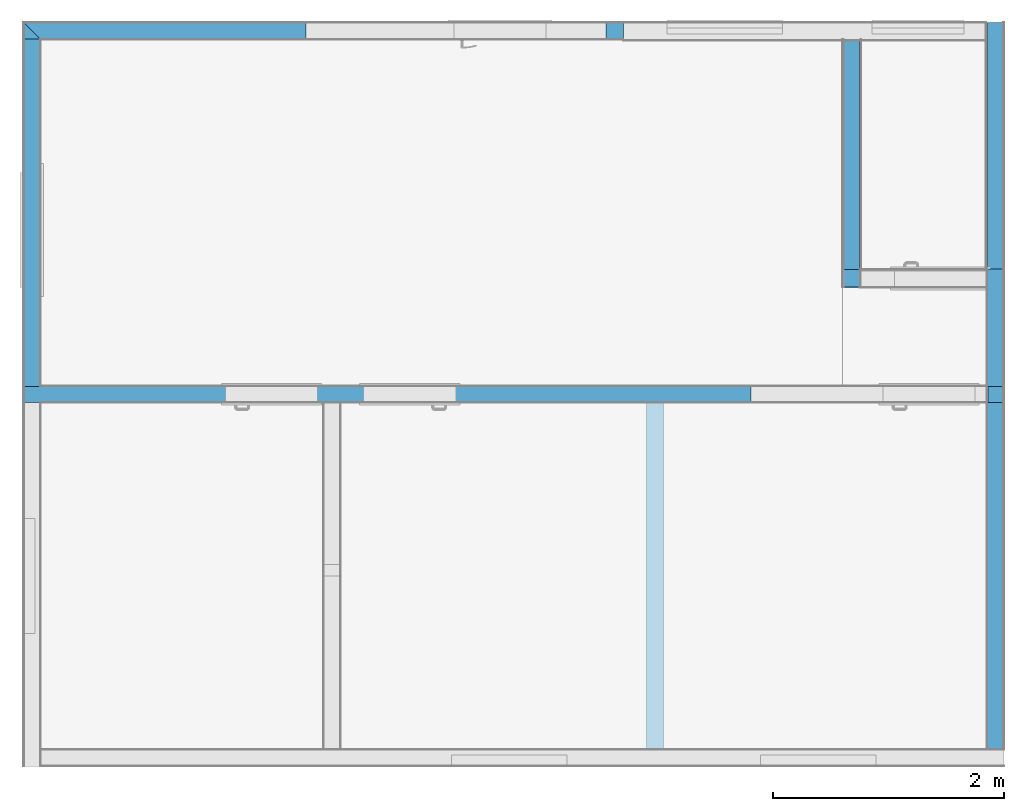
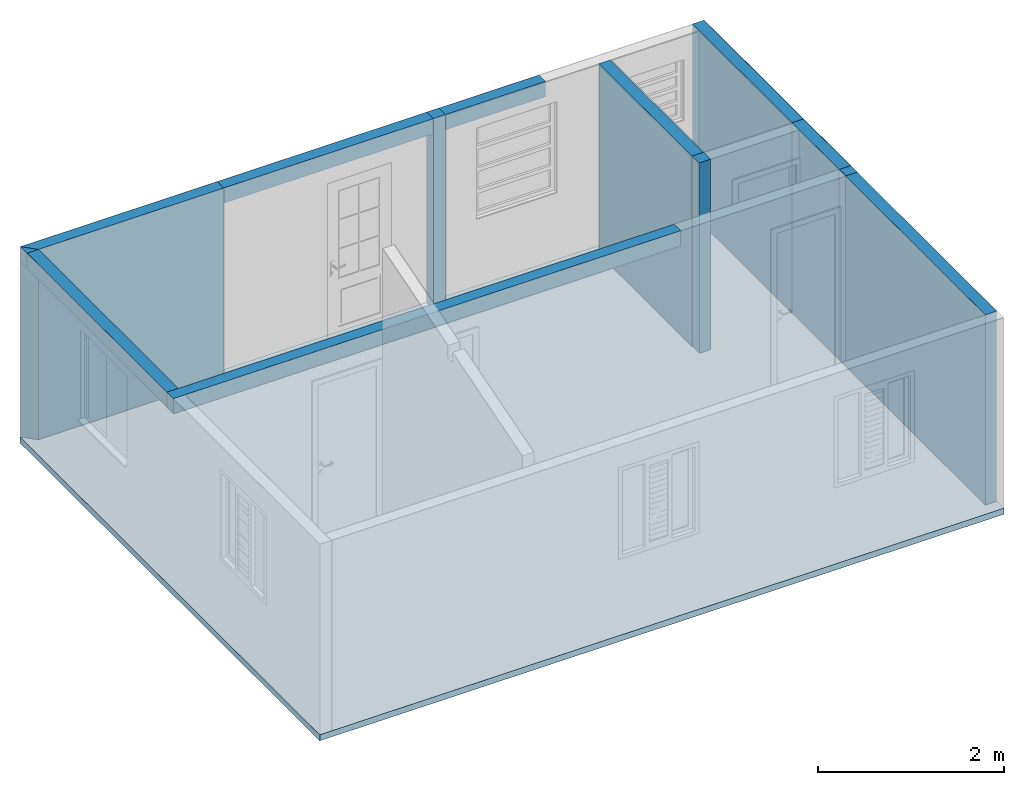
# One storey, part 1 of 8: 7 building element parts, 4 beams, 1 slab, 7 elements without a shape of their own.
"""IFC2X3 building model written with IfcOpenShell, lengths in millimetres."""

from ifc_helpers import new_model, entity, si_unit, converted_unit, derived_unit, money_unit, direction, frame, frame_2d, origin_with_axes, place, context, subcontext, project, spatial, polyline, rectangle, outline, extrude, boolean, faceted_brep, material, layer, layer_set, layer_usage, type_object, element, aggregate, save


model = new_model("IFC2X3")

# Units and contexts
model_context = context("Model", 3, precision=0.01, world=origin_with_axes(), true_north=direction((0.0, 1.0)))
body_context = subcontext(model_context, "Body", "Model", "MODEL_VIEW")
ifc_project = project(units=[si_unit("LENGTHUNIT", "METRE", prefix="MILLI"), si_unit("AREAUNIT", "SQUARE_METRE"), si_unit("VOLUMEUNIT", "CUBIC_METRE"), converted_unit("PLANEANGLEUNIT", "DEGREE", entity("IfcPlaneAngleMeasure", 0.0174532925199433), si_unit("PLANEANGLEUNIT", "RADIAN"), dimensions=[0, 0, 0, 0, 0, 0, 0]), money_unit("USD"), converted_unit("TIMEUNIT", "Year", entity("IfcTimeMeasure", 31557600.0), si_unit("TIMEUNIT", "SECOND"), dimensions=[0, 0, 1, 0, 0, 0, 0]), si_unit("MASSUNIT", "GRAM", prefix="KILO"), si_unit("THERMODYNAMICTEMPERATUREUNIT", "DEGREE_CELSIUS"), si_unit("LUMINOUSINTENSITYUNIT", "LUMEN"), si_unit("ENERGYUNIT", "JOULE", prefix="MEGA"), derived_unit("THERMALCONDUCTANCEUNIT", [(si_unit("POWERUNIT", "WATT"), 1), (si_unit("LENGTHUNIT", "METRE"), -1), (si_unit("THERMODYNAMICTEMPERATUREUNIT", "KELVIN"), -1)]), derived_unit("SPECIFICHEATCAPACITYUNIT", [(si_unit("ENERGYUNIT", "JOULE"), 1), (si_unit("MASSUNIT", "GRAM", prefix="KILO"), -1), (si_unit("THERMODYNAMICTEMPERATUREUNIT", "KELVIN"), -1)]), derived_unit("MASSDENSITYUNIT", [(si_unit("MASSUNIT", "GRAM", prefix="KILO"), 1), (si_unit("VOLUMEUNIT", "CUBIC_METRE"), -1)])], contexts=[model_context])

# Site, building, storey
site_placement = place(None, origin_with_axes())
site = spatial("IfcSite", under=ifc_project, at=site_placement, Name="Local", CompositionType="ELEMENT")
building_placement = place(site_placement, origin_with_axes())
building = spatial("IfcBuilding", under=site, at=building_placement, Name="Construção", CompositionType="ELEMENT")
storey_placement = place(building_placement, origin_with_axes())
storey = spatial("IfcBuildingStorey", under=building, at=storey_placement, Name="Pavimento Térreo", CompositionType="ELEMENT", Elevation=0.0)

# Beams
ifc_material_1 = material(Name="Concreto - Estrutural")
beam_type = type_object("IfcBeamType", Name="Concreto - Estrutural 140 x 200", PredefinedType="BEAM")
beam_1_placement = place(storey_placement, frame((5.000042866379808, 6375.000000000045, 2500.0), z_axis=(0.0, 0.0, 1.0), x_axis=(0.0, -1.0, 0.0)))
element("IfcBeam", 1, at=beam_1_placement, inside=storey, type_object=beam_type, material=ifc_material_1, Name="V01", ObjectType="BEAM", context=body_context, shape_type="SweptSolid", body=[
    extrude(rectangle(XDim=200.0, YDim=140.0, at=frame_2d((-100.0, 0.0), x_axis=(1.0, 0.0))), frame((0.0, 0.0, 0.0), z_axis=(0.0, 1.0, 0.0), x_axis=(0.0, 0.0, 1.0)), (0.0, 0.0, 1.0), 6439.999957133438),
])
beam_2_placement = place(storey_placement, frame((8430.0, 6305.000000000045, 2500.0), z_axis=(0.0, 0.0, 1.0), x_axis=(-1.0, 0.0, 0.0)))
element("IfcBeam", 2, at=beam_2_placement, inside=storey, type_object=beam_type, material=ifc_material_1, Name="V02", ObjectType="BEAM", context=body_context, shape_type="SweptSolid", body=[
    extrude(rectangle(XDim=200.0, YDim=140.0, at=frame_2d((-100.0, 0.0), x_axis=(1.0, 0.0))), frame((0.0, 0.0, 0.0), z_axis=(0.0, 1.0, 0.0), x_axis=(0.0, 0.0, 1.0)), (0.0, 0.0, 1.0), 3149.999999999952),
])
beam_3_placement = place(storey_placement, frame((74.99999999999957, 3295.000000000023, 2500.0), z_axis=(0.0, 0.0, 1.0), x_axis=(1.0, 0.0, 0.0)))
element("IfcBeam", 3, at=beam_3_placement, inside=storey, type_object=beam_type, material=ifc_material_1, Name="V04", ObjectType="BEAM", context=body_context, shape_type="SweptSolid", body=[
    extrude(rectangle(XDim=200.0, YDim=140.0, at=frame_2d((-100.0, 0.0), x_axis=(1.0, 0.0))), frame((0.0, 0.0, 0.0), z_axis=(0.0, 1.0, 0.0), x_axis=(0.0, 0.0, 1.0)), (0.0, 0.0, 1.0), 3010.000000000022),
])
beam_4_placement = place(storey_placement, frame((6304.999999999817, 3225.000000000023, 2500.0), z_axis=(0.0, 0.0, 1.0), x_axis=(0.0, 1.0, 0.0)))
element("IfcBeam", 4, at=beam_4_placement, inside=storey, type_object=beam_type, material=ifc_material_1, Name="V03", ObjectType="BEAM", context=body_context, shape_type="SweptSolid", body=[
    extrude(rectangle(XDim=200.0, YDim=140.0, at=frame_2d((-100.0, 0.0), x_axis=(1.0, 0.0))), frame((0.0, 0.0, 0.0), z_axis=(0.0, 1.0, 0.0), x_axis=(0.0, 0.0, 1.0)), (0.0, 0.0, 1.0), 6299.999957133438),
])

# Slab
ifc_material_2 = material(Name="Concreto Armado - Estrutural")
ifc_layer = layer(ifc_material_2, 80.0, ventilated="UNKNOWN")
ifc_layer_set = layer_set([ifc_layer], Name="Concreto Armado - Estrutural 80")
ifc_layer_usage = layer_usage(ifc_layer_set, "AXIS3", "NEGATIVE", 80.0)
slab_type = type_object("IfcSlabType", Name="Concreto Armado - Estrutural 80", PredefinedType="NOTDEFINED")
slab_placement = place(storey_placement, origin_with_axes())
element("IfcSlab", 5, at=slab_placement, inside=storey, type_object=slab_type, material=ifc_layer_usage, Name="L01", PredefinedType="NOTDEFINED", context=body_context, shape_type="SweptSolid", body=[
    extrude(outline(polyline([(0.0, 0.0), (8500.0, 0.0), (8500.0, 6450.000000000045), (0.0, 6450.000000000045), (0.0, 0.0)])), frame((0.0, 0.0, -80.0), z_axis=(0.0, 0.0, 1.0), x_axis=(1.0, 0.0, 0.0)), (0.0, 0.0, 1.0), 80.0),
])

# Wall, building element part
wall_type_1 = type_object("IfcWallType", Name="Alvenaria 140, Rebocada 2 Faces 150", PredefinedType="NOTDEFINED")
wall_1_placement = place(storey_placement, frame((8500.0, 149.9999999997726, 0.0), z_axis=(0.0, 0.0, 1.0), x_axis=(0.0, 1.0, 0.0)))
wall_1 = element("IfcWall", 6, at=wall_1_placement, inside=storey, type_object=wall_type_1, Name="Parede-03 - Trecho 3")
ifc_material_3 = material(Name="Bloco de Concreto - Estrutural DEF")
building_element_part_1_placement = place(wall_1_placement, origin_with_axes())
building_element_part_1 = element("IfcBuildingElementPart", 7, at=building_element_part_1_placement, material=ifc_material_3, Name="Bloco de Concreto - Estrutural DEF", context=body_context, shape_type="CSG", body=[
    boolean("DIFFERENCE", boolean("DIFFERENCE", extrude(outline(polyline([(0.0, 5.000000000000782), (3145.00000000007, 5.000000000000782), (3145.00000000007, 144.9999999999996), (0.0, 144.9999999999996), (0.0, 5.000000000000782)])), origin_with_axes(), (0.0, 0.0, 1.0), 2500.0), faceted_brep([(3005.00000000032, 0.0, 2500.0), (3005.00000000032, 0.0, 2300.0), (3145.000000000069, 0.0, 2300.0), (3145.00000000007, 0.0, 2500.0), (3005.00000000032, 5.000000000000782, 2500.0), (3005.00000000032, 5.000000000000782, 2300.0), (3145.00000000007, 5.000000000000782, 2300.0), (3145.00000000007, 5.000000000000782, 2500.0)], [[[0, 1, 2, 3]], [[1, 0, 4, 5]], [[6, 2, 1, 5]], [[2, 6, 7, 3]], [[4, 0, 3, 7]], [[5, 4, 7, 6]]])), faceted_brep([(3005.00000000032, 5.000000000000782, 2500.0), (3005.00000000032, 5.000000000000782, 2300.0), (3145.00000000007, 5.000000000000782, 2300.0), (3145.00000000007, 5.000000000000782, 2500.0), (3005.00000000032, 140.0000000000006, 2500.0), (3005.00000000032, 140.0000000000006, 2300.0), (3145.00000000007, 140.0000000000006, 2300.0), (3145.00000000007, 140.0000000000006, 2500.0)], [[[0, 1, 2, 3]], [[0, 4, 5, 1]], [[6, 2, 1, 5]], [[6, 7, 3, 2]], [[4, 0, 3, 7]], [[4, 7, 6, 5]]])),
])
aggregate(wall_1, [building_element_part_1])

wall_type_2 = type_object("IfcWallType", Name="Alvenaria 140, Azulejo + Rebocada 160", PredefinedType="NOTDEFINED")
wall_2_placement = place(storey_placement, frame((7098.898364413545, 4304.999980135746, 0.0), z_axis=(0.0, 0.0, 1.0), x_axis=(0.0, -1.0, 0.0)))
wall_2 = element("IfcWall", 8, at=wall_2_placement, inside=storey, type_object=wall_type_2, Name="Parede-07 - Trecho 2")
building_element_part_2_placement = place(wall_2_placement, origin_with_axes())
building_element_part_2 = element("IfcBuildingElementPart", 9, at=building_element_part_2_placement, material=ifc_material_3, Name="Bloco de Concreto - Estrutural DEF", context=body_context, shape_type="SweptSolid", body=[
    extrude(outline(polyline([(0.0, 14.99999999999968), (150.0000000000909, 14.99999999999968), (150.0000000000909, 155.0000000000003), (0.0, 155.0000000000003), (0.0, 14.99999999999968)])), origin_with_axes(), (0.0, 0.0, 1.0), 2500.0),
])
aggregate(wall_2, [building_element_part_2])

wall_type_3 = type_object("IfcWallType", Name="Alvenaria 140, Azulejo + Azulejo 165", PredefinedType="NOTDEFINED")
wall_3_placement = place(storey_placement, frame((7098.898364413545, 6304.999980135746, 0.0), z_axis=(0.0, 0.0, 1.0), x_axis=(0.0, -1.0, 0.0)))
wall_3 = element("IfcWall", 10, at=wall_3_placement, inside=storey, type_object=wall_type_3, Name="Parede-07 - Trecho 1")
building_element_part_3_placement = place(wall_3_placement, origin_with_axes())
building_element_part_3 = element("IfcBuildingElementPart", 11, at=building_element_part_3_placement, material=ifc_material_3, Name="Bloco de Concreto - Estrutural DEF", context=body_context, shape_type="SweptSolid", body=[
    extrude(outline(polyline([(0.0, 9.999999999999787), (2000.0, 9.999999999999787), (2000.0, 150.0000000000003), (0.0, 150.0000000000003), (0.0, 9.999999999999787)])), origin_with_axes(), (0.0, 0.0, 1.0), 2500.0),
])
aggregate(wall_3, [building_element_part_3])

wall_4_placement = place(storey_placement, frame((2450.000000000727, 6450.000000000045, 0.0), z_axis=(0.0, 0.0, 1.0), x_axis=(-1.0, 0.0, 0.0)))
wall_4 = element("IfcWall", 12, at=wall_4_placement, inside=storey, type_object=wall_type_1, Name="Parede-04 - Trecho 1")
building_element_part_4_placement = place(wall_4_placement, origin_with_axes())
building_element_part_4 = element("IfcBuildingElementPart", 13, at=building_element_part_4_placement, material=ifc_material_3, Name="Bloco de Concreto - Estrutural DEF", context=body_context, shape_type="SweptSolid", body=[
    extrude(outline(polyline([(0.0, 4.999999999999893), (2445.000000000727, 4.999999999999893), (2305.000000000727, 145.0000000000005), (0.0, 145.0000000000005), (0.0, 4.999999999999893)])), origin_with_axes(), (0.0, 0.0, 1.0), 2500.0),
])
aggregate(wall_4, [building_element_part_4])

wall_type_4 = type_object("IfcWallType", Name="Alvenaria 140, Rebocada + Azulejo 160", PredefinedType="NOTDEFINED")
wall_5_placement = place(storey_placement, frame((8500.0, 4309.999999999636, 0.0), z_axis=(0.0, 0.0, 1.0), x_axis=(0.0, 1.0, 0.0)))
wall_5 = element("IfcWall", 14, at=wall_5_placement, inside=storey, type_object=wall_type_4, Name="Parede-03 - Trecho 1")
building_element_part_5_placement = place(wall_5_placement, origin_with_axes())
building_element_part_5 = element("IfcBuildingElementPart", 15, at=building_element_part_5_placement, material=ifc_material_3, Name="Bloco de Concreto - Estrutural DEF", context=body_context, shape_type="SweptSolid", body=[
    extrude(outline(polyline([(0.0, 5.000000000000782), (2140.000000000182, 5.000000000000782), (2140.000000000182, 144.9999999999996), (0.0, 144.9999999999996), (0.0, 5.000000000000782)])), origin_with_axes(), (0.0, 0.0, 1.0), 2500.0),
])
aggregate(wall_5, [building_element_part_5])

wall_6_placement = place(storey_placement, frame((5199.999999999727, 6450.000000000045, 0.0), z_axis=(0.0, 0.0, 1.0), x_axis=(-1.0, 0.0, 0.0)))
wall_6 = element("IfcWall", 16, at=wall_6_placement, inside=storey, type_object=wall_type_1, Name="Parede-04 - Trecho 3")
building_element_part_6_placement = place(wall_6_placement, origin_with_axes())
building_element_part_6 = element("IfcBuildingElementPart", 17, at=building_element_part_6_placement, material=ifc_material_3, Name="Bloco de Concreto - Estrutural DEF", context=body_context, shape_type="SweptSolid", body=[
    extrude(outline(polyline([(0.0, 4.999999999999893), (150.0000000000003, 4.999999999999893), (150.0000000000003, 145.0000000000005), (0.0, 145.0000000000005), (0.0, 4.999999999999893)])), origin_with_axes(), (0.0, 0.0, 1.0), 2500.0),
])
aggregate(wall_6, [building_element_part_6])

wall_7_placement = place(storey_placement, frame((8500.0, 3294.999999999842, 0.0), z_axis=(0.0, 0.0, 1.0), x_axis=(0.0, 1.0, 0.0)))
wall_7 = element("IfcWall", 18, at=wall_7_placement, inside=storey, type_object=wall_type_1, Name="Parede-03 - Trecho 2")
building_element_part_7_placement = place(wall_7_placement, origin_with_axes())
building_element_part_7 = element("IfcBuildingElementPart", 19, at=building_element_part_7_placement, material=ifc_material_3, Name="Bloco de Concreto - Estrutural DEF", context=body_context, shape_type="SweptSolid", body=[
    extrude(outline(polyline([(0.0, 5.000000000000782), (1014.999999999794, 5.000000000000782), (1014.999999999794, 144.9999999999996), (0.0, 144.9999999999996), (0.0, 5.000000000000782)])), origin_with_axes(), (0.0, 0.0, 1.0), 2500.0),
])
aggregate(wall_7, [building_element_part_7])

save(model, "model.ifc")
